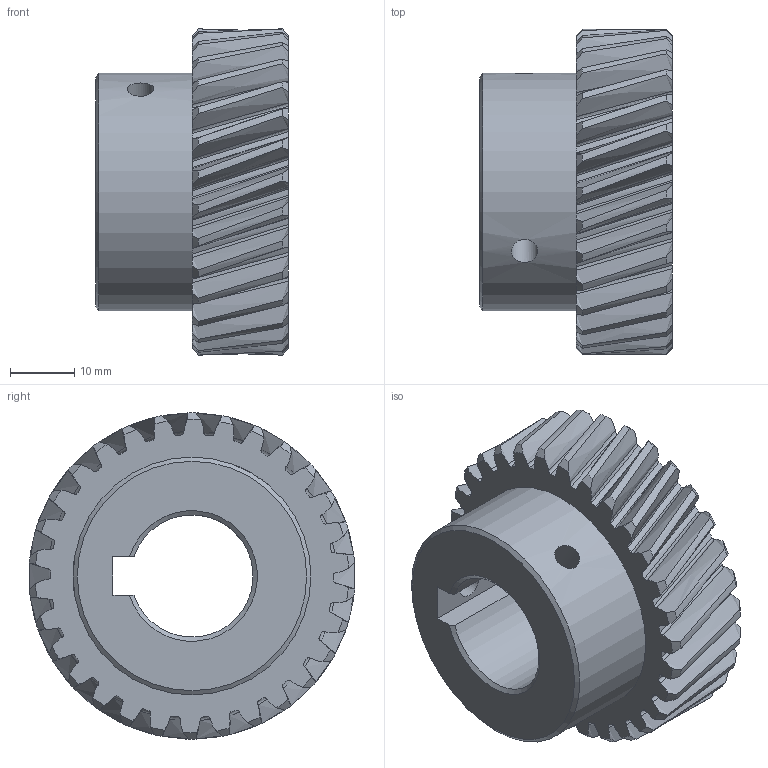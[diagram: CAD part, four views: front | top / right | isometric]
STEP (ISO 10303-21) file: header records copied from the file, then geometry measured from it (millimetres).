
FILE_DESCRIPTION(('STEP AP214'), '1');
FILE_NAME('GH1,5-T30D19 - Øåñòåðíÿ', '', ('UNSPECIFIED'), ('UNSPECIFIED'), 'ASCON STEP Converter 1.3', 'ASCON Math Kernel', '');
FILE_SCHEMA(('AUTOMOTIVE_DESIGN { 1 0 10303 214 3 1 1}'));
Length unit declared in the file: millimetre
Products named in the file (1): GH1,5-T30D19
Bounding box: 30 x 50.64 x 50.75 mm (x, y, z)
Volume: 33382.3 mm3; surface area: 11133.9 mm2
Topology: 1 solids, 1 shells, 313 faces, 930 edges, 621 vertices
Faces by surface type: bspline 180, cylinder 64, cone 63, plane 6
Full cylindrical faces by diameter (mm): 4.134 x2, 37 x1
Entity records: 21164 total; most frequent: CARTESIAN_POINT 11909, ORIENTED_EDGE 1850, EDGE_CURVE 925, B_SPLINE_CURVE_WITH_KNOTS 728, DIRECTION 654, VERTEX_POINT 619, EDGE_LOOP 324, AXIS2_PLACEMENT_3D 322
